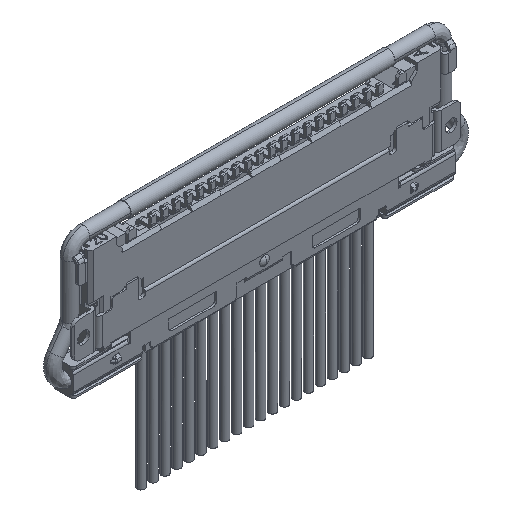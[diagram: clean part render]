
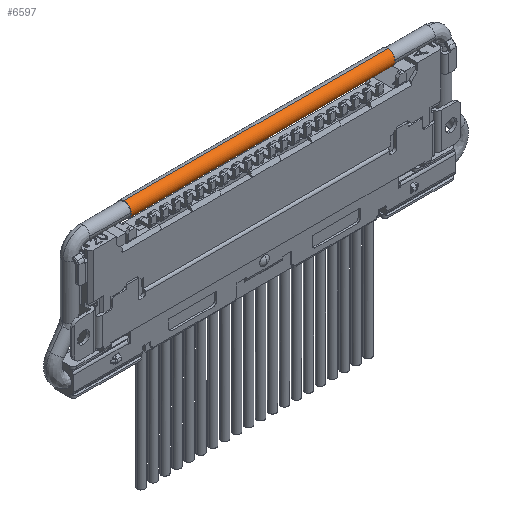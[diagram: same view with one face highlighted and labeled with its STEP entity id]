
A CAD part, isometric view. The second image highlights one B-rep face of the part: STEP entity #6597.
In plain terms, the highlighted cylindrical face has radius 0.305 mm (diameter 0.61 mm), a partial arc.
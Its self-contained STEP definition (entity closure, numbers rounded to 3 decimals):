
#5215 = VERTEX_POINT ( 'NONE', #13644 ) ;
#5332 = VECTOR ( 'NONE', #20236, 1000. ) ;
#6241 = DIRECTION ( 'NONE',  ( 0., 0., -1. ) ) ;
#6287 = VERTEX_POINT ( 'NONE', #29970 ) ;
#6597 = ADVANCED_FACE ( 'NONE', ( #40425 ), #44205, .T. ) ;
#7138 = DIRECTION ( 'NONE',  ( 0., 0., 1. ) ) ;
#7505 = CARTESIAN_POINT ( 'NONE',  ( 5.525, 0.455, 2.575 ) ) ;
#8943 = VERTEX_POINT ( 'NONE', #41200 ) ;
#10929 = DIRECTION ( 'NONE',  ( 0., 0., -1. ) ) ;
#12330 = CARTESIAN_POINT ( 'NONE',  ( 5.525, 0.455, 3.185 ) ) ;
#13644 = CARTESIAN_POINT ( 'NONE',  ( 5.525, 0.455, 2.575 ) ) ;
#15764 = CIRCLE ( 'NONE', #39355, 0.305 ) ;
#17259 = AXIS2_PLACEMENT_3D ( 'NONE', #31165, #43627, #7138 ) ;
#18156 = DIRECTION ( 'NONE',  ( 1., 0., 0. ) ) ;
#18827 = CARTESIAN_POINT ( 'NONE',  ( 5.525, 0.455, 2.88 ) ) ;
#20236 = DIRECTION ( 'NONE',  ( -1., 0., 0. ) ) ;
#20941 = ORIENTED_EDGE ( 'NONE', *, *, #49774, .T. ) ;
#26341 = CARTESIAN_POINT ( 'NONE',  ( -5.525, 0.455, 2.575 ) ) ;
#26555 = EDGE_LOOP ( 'NONE', ( #52039, #30889, #20941, #38511 ) ) ;
#29970 = CARTESIAN_POINT ( 'NONE',  ( -5.525, 0.455, 3.185 ) ) ;
#30889 = ORIENTED_EDGE ( 'NONE', *, *, #32235, .F. ) ;
#31165 = CARTESIAN_POINT ( 'NONE',  ( 5.525, 0.455, 2.88 ) ) ;
#32235 = EDGE_CURVE ( 'NONE', #8943, #5215, #15764, .T. ) ;
#34119 = CARTESIAN_POINT ( 'NONE',  ( -5.525, 0.455, 2.88 ) ) ;
#34197 = LINE ( 'NONE', #7505, #48711 ) ;
#36481 = AXIS2_PLACEMENT_3D ( 'NONE', #34119, #18156, #6241 ) ;
#37471 = EDGE_CURVE ( 'NONE', #5215, #45601, #34197, .T. ) ;
#38511 = ORIENTED_EDGE ( 'NONE', *, *, #49491, .T. ) ;
#38606 = LINE ( 'NONE', #12330, #5332 ) ;
#39355 = AXIS2_PLACEMENT_3D ( 'NONE', #18827, #51341, #10929 ) ;
#40425 = FACE_OUTER_BOUND ( 'NONE', #26555, .T. ) ;
#41200 = CARTESIAN_POINT ( 'NONE',  ( 5.525, 0.455, 3.185 ) ) ;
#43627 = DIRECTION ( 'NONE',  ( -1., 0., 0. ) ) ;
#44205 = CYLINDRICAL_SURFACE ( 'NONE', #17259, 0.305 ) ;
#44918 = CIRCLE ( 'NONE', #36481, 0.305 ) ;
#45601 = VERTEX_POINT ( 'NONE', #26341 ) ;
#48711 = VECTOR ( 'NONE', #50869, 1000. ) ;
#49491 = EDGE_CURVE ( 'NONE', #6287, #45601, #44918, .T. ) ;
#49774 = EDGE_CURVE ( 'NONE', #8943, #6287, #38606, .T. ) ;
#50869 = DIRECTION ( 'NONE',  ( -1., 0., 0. ) ) ;
#51341 = DIRECTION ( 'NONE',  ( 1., 0., 0. ) ) ;
#52039 = ORIENTED_EDGE ( 'NONE', *, *, #37471, .F. ) ;
